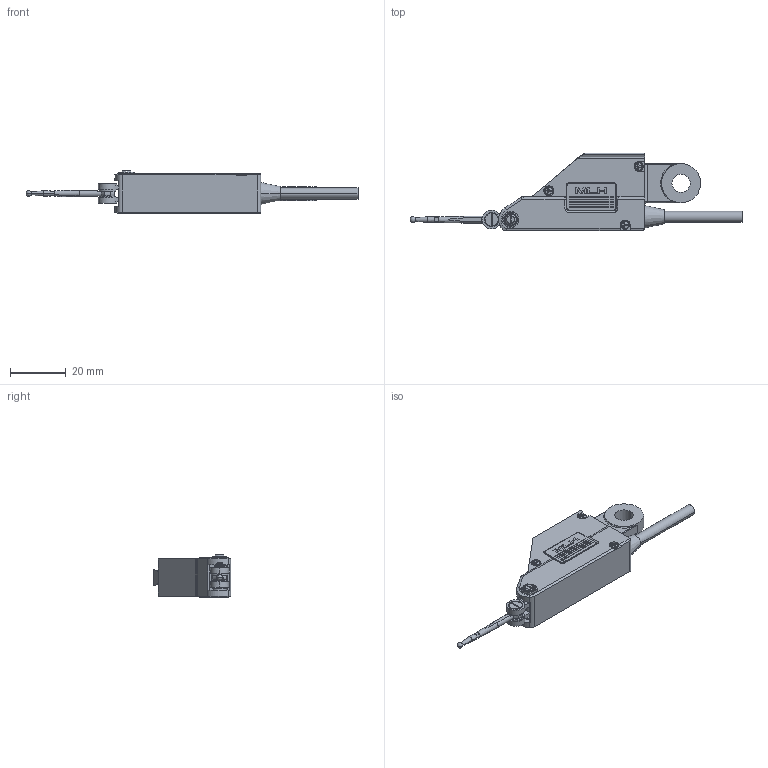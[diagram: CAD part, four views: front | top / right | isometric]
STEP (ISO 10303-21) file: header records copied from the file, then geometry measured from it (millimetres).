
FILE_DESCRIPTION(('Creo Elements/Direct Modeling STEP Export'),'2;1');
FILE_NAME('519-522.stp','2017-08-21T18:41:06',(''),(''),'Creo Elements/Direct Modeling STEP processor for AP214 (Solid Model)','Creo Elements/Direct Modeling 18.1C 24-Feb-2013 (C) Parametric Technology GmbH','');
FILE_SCHEMA(('AUTOMOTIVE_DESIGN { 1 0 10303 214 1 1 1 1 }'));
Length unit declared in the file: millimetre
Products named in the file (2): 519-522
Assembly tree (1 placements, depth 2):
  519-522
    519-522
Bounding box: 118.8 x 27.75 x 15.1 mm (x, y, z)
Volume: 16264.4 mm3; surface area: 6385.5 mm2
Topology: 1 solids, 1 shells, 610 faces, 1620 edges, 1046 vertices
Faces by surface type: plane 297, cylinder 208, cone 71, bspline 11, extrusion 9, sphere 8, torus 6
Entity records: 21656 total; most frequent: CARTESIAN_POINT 6566, ORIENTED_EDGE 3224, DIRECTION 3022, EDGE_CURVE 1612, AXIS2_PLACEMENT_3D 1049, VERTEX_POINT 1046, VECTOR 924, LINE 915
